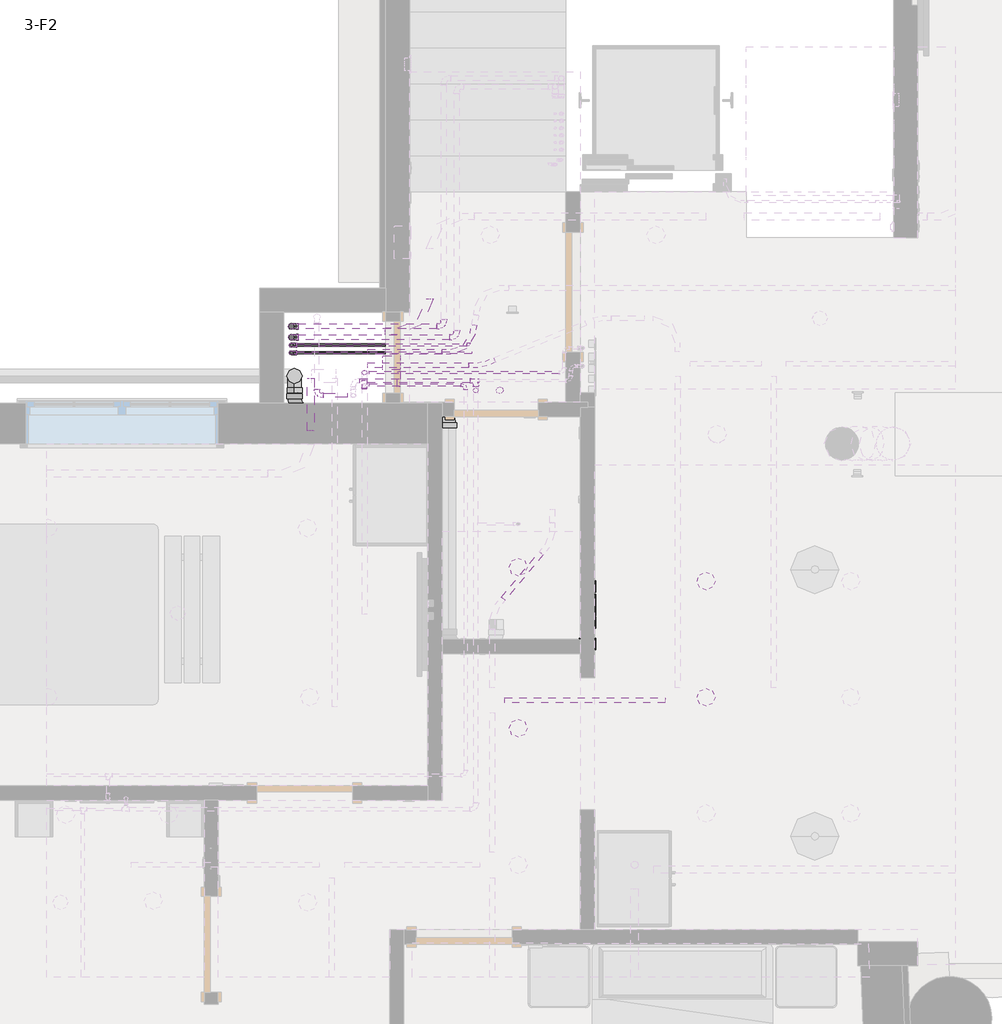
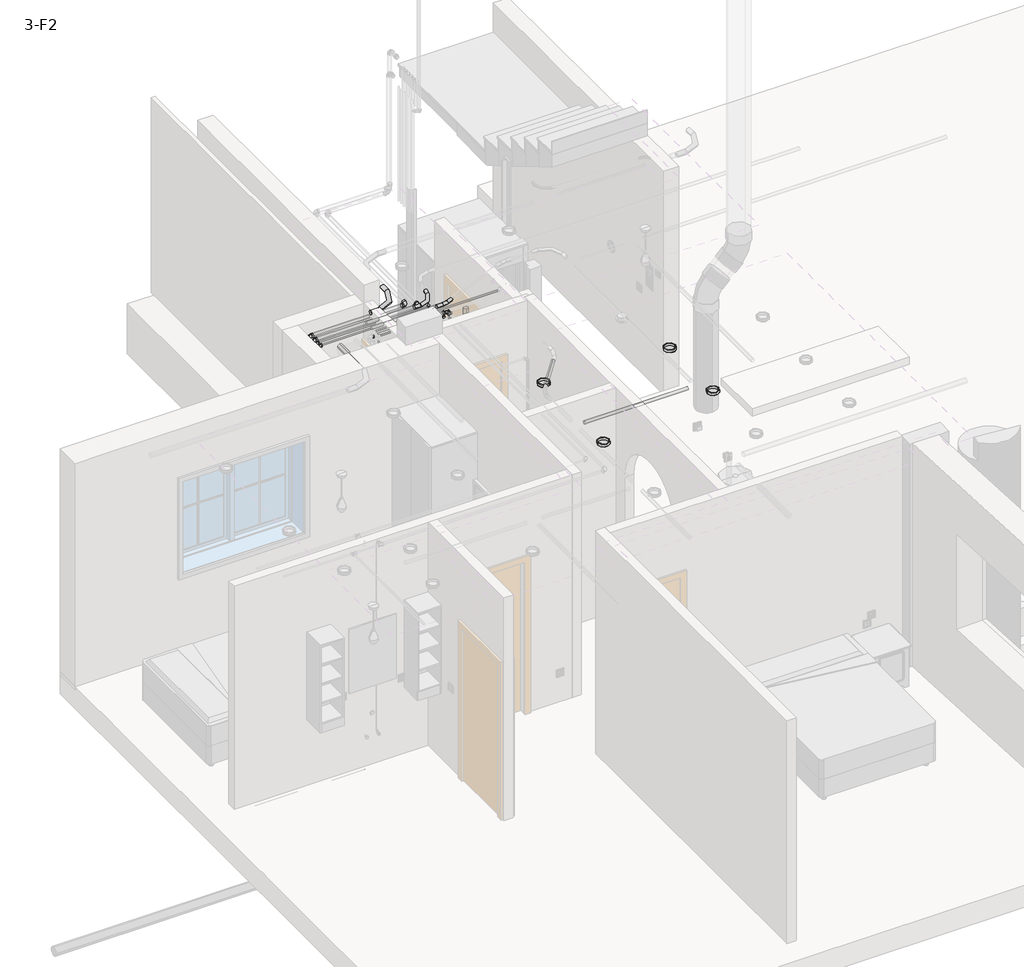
# One storey, part 8 of 12: 20 pipe fittings, 20 pipe segments, 7 cable carrier segments, 5 switching devices, 4 light fixtures, 3 cable carrier fittings, 2 proxies.
"""IFC4 building model written with IfcOpenShell, lengths in millimetres."""

from ifc_helpers import new_model, si_unit, point, frame, frame_2d, origin, place, context, project, spatial, circle_curve, trimmed, segment, composite_curve, outline, extrude, transform, mapped, element, save
from components import m_fan_standard_eed13d24, wall_mounted_socket_ups_wall_mounted_socket_ups_4524048d, m_conduit_elbow_aluminum_standard_8a5b7878, m_conduit_elbow_aluminum_standard_ff32c618, m_conduit_elbow_without_fittings_emt_standard_11a9927b, m_downlight_recessed_can_152mm_incandescent_120v_1ee42939, m_bend_pvc_sch_40_dwv_standard_48d77e49, m_bend_pvc_sch_40_dwv_standard_1fb0f857, m_bend_pvc_sch_40_dwv_standard_738aab8b, m_bend_pvc_sch_40_dwv_standard_b153bf5a, m_bend_pvc_sch_40_dwv_standard_42e46e6b, m_bend_pvc_sch_40_dwv_standard_59af4741, m_bend_pvc_sch_40_dwv_standard_6b4332b1, m_bend_pvc_sch_40_dwv_standard_4a518940, m_elbow_welded_generic_standard_c3fc6815, m_reducer_pvc_sch_40_dwv_standard_ed73b344, m_tee_reducing_sanitary_pvc_sch_40_dwv_standard_0d22577e, m_tee_reducing_sanitary_pvc_sch_40_dwv_standard_51b4b954, m_tee_reducing_sanitary_pvc_sch_40_dwv_standard_743e33f4, switching_device_8f59fbb7, switching_device_ab05ab5c

model = new_model("IFC4")

# Units and contexts
model_context = context("Model", 3, world=origin())
ifc_project = project(units=[si_unit("LENGTHUNIT", "METRE", prefix="MILLI")], contexts=[model_context])

# Site, building, storey
site = spatial("IfcSite", under=ifc_project)
building = spatial("IfcBuilding", under=site)
storey = spatial("IfcBuildingStorey", under=building, Name="3-F2", Elevation=6550.0)

# Proxies
placement = place(None, origin())
m_fan_standard_shape = m_fan_standard_eed13d24(model_context)
element("IfcBuildingElementProxy", 1, Name="M_Fan : Standard", ObjectType="M_Fan : Standard", at=placement, inside=storey, context=model_context, shape_type="MappedRepresentation", body=[
    mapped(m_fan_standard_shape, transform((-4937.4765921, 3524.4560655, 9350.0), x_axis=(0.0, 1.0, 0.0), y_axis=(0.0, 0.0, 1.0), z_axis=(1.0, 0.0, 0.0))),
])
wall_mounted_socket_ups_wall_mounted_socket_ups_shape = wall_mounted_socket_ups_wall_mounted_socket_ups_4524048d(model_context)
element("IfcBuildingElementProxy", 2, Name="WALL MOUNTED SOCKET : WALL MOUNTED SOCKET", ObjectType="WALL MOUNTED SOCKET : WALL MOUNTED SOCKET", at=placement, inside=storey, context=model_context, shape_type="MappedRepresentation", body=[
    mapped(wall_mounted_socket_ups_wall_mounted_socket_ups_shape, transform((-3317.6151583, 1800.1275048, 7000.0), x_axis=(0.0, 1.0, 0.0), y_axis=(0.0, 0.0, 1.0), z_axis=(1.0, 0.0, 0.0))),
])

# Cable carrier fittings
m_conduit_elbow_aluminum_standard_shape = m_conduit_elbow_aluminum_standard_8a5b7878(model_context)
element("IfcCableCarrierFitting", 3, ObjectType="M_Conduit Elbow - Aluminum : Standard", at=placement, inside=storey, context=model_context, shape_type="MappedRepresentation", body=[
    mapped(m_conduit_elbow_aluminum_standard_shape, transform((-4362.6085608, 3752.1999775, 9630.825), x_axis=(1.0, 0.0, 0.0), y_axis=(0.0, 1.0, 0.0), z_axis=(0.0, 0.0, 1.0))),
])
m_conduit_elbow_aluminum_standard_2_shape = m_conduit_elbow_aluminum_standard_ff32c618(model_context)
element("IfcCableCarrierFitting", 4, ObjectType="M_Conduit Elbow - Aluminum : Standard", at=placement, inside=storey, context=model_context, shape_type="MappedRepresentation", body=[
    mapped(m_conduit_elbow_aluminum_standard_2_shape, transform((-4256.3129672, 3642.1315282, 9630.825), x_axis=(1.0, 0.0, 0.0), y_axis=(0.0, 1.0, 0.0), z_axis=(0.0, 0.0, 1.0))),
])
m_conduit_elbow_without_fittings_emt_standard_shape = m_conduit_elbow_without_fittings_emt_standard_11a9927b(model_context)
element("IfcCableCarrierFitting", 5, ObjectType="M_Conduit Elbow - without Fittings - EMT : Standard", at=placement, inside=storey, context=model_context, shape_type="MappedRepresentation", body=[
    mapped(m_conduit_elbow_without_fittings_emt_standard_shape, transform((-4690.7650264, 3923.6310655, 9622.1), x_axis=(1.0, 0.0, 0.0), y_axis=(0.0, 1.0, 0.0), z_axis=(0.0, 0.0, 1.0))),
])

# Cable carrier segments
element("IfcCableCarrierSegment", 6, ObjectType="Power", at=placement, inside=storey, context=model_context, shape_type="SweptSolid", body=[
    extrude(outline(composite_curve([segment(trimmed(circle_curve(frame_2d((9619.835, -5682.4765921)), 30.165), [point((9619.835, -5652.3115921))], [point((9650.0, -5682.4765921))], False, "CARTESIAN"), True, "CONTINUOUS"), segment(trimmed(circle_curve(frame_2d((9619.835, -5682.4765921)), 30.165), [point((9650.0, -5682.4765921))], [point((9619.835, -5712.6415921))], False, "CARTESIAN"), True, "CONTINUOUS"), segment(trimmed(circle_curve(frame_2d((9619.835, -5682.4765921)), 30.165), [point((9619.835, -5712.6415921))], [point((9589.67, -5682.4765921))], False, "CARTESIAN"), True, "CONTINUOUS"), segment(trimmed(circle_curve(frame_2d((9619.835, -5682.4765921)), 30.165), [point((9589.67, -5682.4765921))], [point((9619.835, -5652.3115921))], False, "CARTESIAN"), True, "CONTINUOUS")], self_intersect=False)), frame((0.0, 3096.0291386, 0.0), z_axis=(0.0, 1.0, 0.0), x_axis=(0.0, 0.0, 1.0)), (0.0, 0.0, 1.0), 435.7143274),
])
element("IfcCableCarrierSegment", 7, ObjectType="Power", at=placement, inside=storey, context=model_context, shape_type="SweptSolid", body=[
    extrude(outline(composite_curve([segment(trimmed(circle_curve(frame_2d((-4107.5, 3432.4)), 30.165), [point((-4137.665, 3432.4))], [point((-4107.5, 3462.565))], False, "CARTESIAN"), True, "CONTINUOUS"), segment(trimmed(circle_curve(frame_2d((-4107.5, 3432.4)), 30.165), [point((-4107.5, 3462.565))], [point((-4077.335, 3432.4))], False, "CARTESIAN"), True, "CONTINUOUS"), segment(trimmed(circle_curve(frame_2d((-4107.5, 3432.4)), 30.165), [point((-4077.335, 3432.4))], [point((-4107.5, 3402.235))], False, "CARTESIAN"), True, "CONTINUOUS"), segment(trimmed(circle_curve(frame_2d((-4107.5, 3432.4)), 30.165), [point((-4107.5, 3402.235))], [point((-4137.665, 3432.4))], False, "CARTESIAN"), True, "CONTINUOUS")], self_intersect=False)), frame((0.0, 0.0, 8746.25), z_axis=(0.0, 0.0, 1.0), x_axis=(1.0, 0.0, 0.0)), (0.0, 0.0, 1.0), 903.75),
])
element("IfcCableCarrierSegment", 8, ObjectType="Power", at=placement, inside=storey, context=model_context, shape_type="SweptSolid", body=[
    extrude(outline(composite_curve([segment(trimmed(circle_curve(frame_2d((-4307.5, 3432.4)), 21.08), [point((-4328.58, 3432.4))], [point((-4307.5, 3453.48))], False, "CARTESIAN"), True, "CONTINUOUS"), segment(trimmed(circle_curve(frame_2d((-4307.5, 3432.4)), 21.08), [point((-4307.5, 3453.48))], [point((-4286.42, 3432.4))], False, "CARTESIAN"), True, "CONTINUOUS"), segment(trimmed(circle_curve(frame_2d((-4307.5, 3432.4)), 21.08), [point((-4286.42, 3432.4))], [point((-4307.5, 3411.32))], False, "CARTESIAN"), True, "CONTINUOUS"), segment(trimmed(circle_curve(frame_2d((-4307.5, 3432.4)), 21.08), [point((-4307.5, 3411.32))], [point((-4328.58, 3432.4))], False, "CARTESIAN"), True, "CONTINUOUS")], self_intersect=False)), frame((0.0, 0.0, 8720.85), z_axis=(0.0, 0.0, 1.0), x_axis=(1.0, 0.0, 0.0)), (0.0, 0.0, 1.0), 929.15),
])
element("IfcCableCarrierSegment", 9, ObjectType="Power", at=placement, inside=storey, context=model_context, shape_type="SweptSolid", body=[
    extrude(outline(composite_curve([segment(trimmed(circle_curve(frame_2d((3642.1315282, 9630.825)), 21.08), [point((3621.0515282, 9630.825))], [point((3642.1315282, 9651.905))], False, "CARTESIAN"), True, "CONTINUOUS"), segment(trimmed(circle_curve(frame_2d((3642.1315282, 9630.825)), 21.08), [point((3642.1315282, 9651.905))], [point((3663.2115282, 9630.825))], False, "CARTESIAN"), True, "CONTINUOUS"), segment(trimmed(circle_curve(frame_2d((3642.1315282, 9630.825)), 21.08), [point((3663.2115282, 9630.825))], [point((3642.1315282, 9609.745))], False, "CARTESIAN"), True, "CONTINUOUS"), segment(trimmed(circle_curve(frame_2d((3642.1315282, 9630.825)), 21.08), [point((3642.1315282, 9609.745))], [point((3621.0515282, 9630.825))], False, "CARTESIAN"), True, "CONTINUOUS")], self_intersect=False)), frame((-5207.5, 0.0, 0.0), z_axis=(1.0, 0.0, 0.0), x_axis=(0.0, 1.0, 0.0)), (0.0, 0.0, 1.0), 839.1918989),
])
element("IfcCableCarrierSegment", 10, ObjectType="Power", at=placement, inside=storey, context=model_context, shape_type="SweptSolid", body=[
    extrude(outline(composite_curve([segment(trimmed(circle_curve(frame_2d((3752.1999775, 9630.825)), 21.08), [point((3731.1199775, 9630.825))], [point((3752.1999775, 9651.905))], False, "CARTESIAN"), True, "CONTINUOUS"), segment(trimmed(circle_curve(frame_2d((3752.1999775, 9630.825)), 21.08), [point((3752.1999775, 9651.905))], [point((3773.2799775, 9630.825))], False, "CARTESIAN"), True, "CONTINUOUS"), segment(trimmed(circle_curve(frame_2d((3752.1999775, 9630.825)), 21.08), [point((3773.2799775, 9630.825))], [point((3752.1999775, 9609.745))], False, "CARTESIAN"), True, "CONTINUOUS"), segment(trimmed(circle_curve(frame_2d((3752.1999775, 9630.825)), 21.08), [point((3752.1999775, 9609.745))], [point((3731.1199775, 9630.825))], False, "CARTESIAN"), True, "CONTINUOUS")], self_intersect=False)), frame((-5207.5, 0.0, 0.0), z_axis=(1.0, 0.0, 0.0), x_axis=(0.0, 1.0, 0.0)), (0.0, 0.0, 1.0), 615.6701646),
])
element("IfcCableCarrierSegment", 11, ObjectType="Power", at=placement, inside=storey, context=model_context, shape_type="SweptSolid", body=[
    extrude(outline(composite_curve([segment(trimmed(circle_curve(frame_2d((0.0, -21.08)), 21.08), [point((-21.08, -21.08))], [point((0.0, 0.0))], False, "CARTESIAN"), True, "CONTINUOUS"), segment(trimmed(circle_curve(frame_2d((0.0, -21.08)), 21.08), [point((0.0, 0.0))], [point((21.08, -21.08))], False, "CARTESIAN"), True, "CONTINUOUS"), segment(trimmed(circle_curve(frame_2d((0.0, -21.08)), 21.08), [point((21.08, -21.08))], [point((0.0, -42.16))], False, "CARTESIAN"), True, "CONTINUOUS"), segment(trimmed(circle_curve(frame_2d((0.0, -21.08)), 21.08), [point((0.0, -42.16))], [point((-21.08, -21.08))], False, "CARTESIAN"), True, "CONTINUOUS")], self_intersect=False)), frame((-4079.4628022, 1697.5535711, 9609.745), z_axis=(0.6427876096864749, 0.7660444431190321, 0.0), x_axis=(0.7660444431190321, -0.6427876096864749, 0.0)), (0.0, 0.0, 1.0), 493.5497627),
])
element("IfcCableCarrierSegment", 12, ObjectType="Power", at=placement, inside=storey, context=model_context, shape_type="SweptSolid", body=[
    extrude(outline(composite_curve([segment(trimmed(circle_curve(frame_2d((852.6176449, 9630.825)), 21.08), [point((873.6976449, 9630.825))], [point((852.6176449, 9609.745))], False, "CARTESIAN"), True, "CONTINUOUS"), segment(trimmed(circle_curve(frame_2d((852.6176449, 9630.825)), 21.08), [point((852.6176449, 9609.745))], [point((831.5376449, 9630.825))], False, "CARTESIAN"), True, "CONTINUOUS"), segment(trimmed(circle_curve(frame_2d((852.6176449, 9630.825)), 21.08), [point((831.5376449, 9630.825))], [point((852.6176449, 9651.905))], False, "CARTESIAN"), True, "CONTINUOUS"), segment(trimmed(circle_curve(frame_2d((852.6176449, 9630.825)), 21.08), [point((852.6176449, 9651.905))], [point((873.6976449, 9630.825))], False, "CARTESIAN"), True, "CONTINUOUS")], self_intersect=False)), frame((-4066.5261339, 0.0, 0.0), z_axis=(1.0, 0.0, 0.0), x_axis=(0.0, 1.0, 0.0)), (0.0, 0.0, 1.0), 1334.0495417),
])

# Light fixtures
m_downlight_recessed_can_152mm_incandescent_120v_shape = m_downlight_recessed_can_152mm_incandescent_120v_1ee42939(model_context)
element("IfcLightFixture", 13, ObjectType="M_Downlight - Recessed Can : 203mm Incandescent - 277V", at=placement, inside=storey, context=model_context, shape_type="MappedRepresentation", body=[
    mapped(m_downlight_recessed_can_152mm_incandescent_120v_shape, transform((-2390.7208752, 1844.6820281, 6935.4), x_axis=(1.0, 0.0, 0.0), y_axis=(0.0, 1.0, 0.0), z_axis=(0.0, 0.0, 1.0))),
])
element("IfcLightFixture", 14, ObjectType="M_Downlight - Recessed Can : 203mm Incandescent - 277V", at=placement, inside=storey, context=model_context, shape_type="MappedRepresentation", body=[
    mapped(m_downlight_recessed_can_152mm_incandescent_120v_shape, transform((-2390.7208752, 877.7272222, 6935.4), x_axis=(1.0, 0.0, 0.0), y_axis=(0.0, 1.0, 0.0), z_axis=(0.0, 0.0, 1.0))),
])
element("IfcLightFixture", 15, ObjectType="M_Downlight - Recessed Can : 203mm Incandescent - 277V", at=placement, inside=storey, context=model_context, shape_type="MappedRepresentation", body=[
    mapped(m_downlight_recessed_can_152mm_incandescent_120v_shape, transform((-3954.5706461, 620.1275048, 6935.4), x_axis=(1.0, 0.0, 0.0), y_axis=(0.0, 1.0, 0.0), z_axis=(0.0, 0.0, 1.0))),
])
element("IfcLightFixture", 16, ObjectType="M_Downlight - Recessed Can : 203mm Incandescent - 277V", at=placement, inside=storey, context=model_context, shape_type="MappedRepresentation", body=[
    mapped(m_downlight_recessed_can_152mm_incandescent_120v_shape, transform((-3954.5706461, 1960.1275048, 6935.4), x_axis=(1.0, 0.0, 0.0), y_axis=(0.0, 1.0, 0.0), z_axis=(0.0, 0.0, 1.0))),
])

# Pipe fittings
m_bend_pvc_sch_40_dwv_standard_shape = m_bend_pvc_sch_40_dwv_standard_48d77e49(model_context)
element("IfcPipeFitting", 17, ObjectType="M_Bend - PVC - Sch 40 - DWV : Standard", at=placement, inside=storey, context=model_context, shape_type="MappedRepresentation", body=[
    mapped(m_bend_pvc_sch_40_dwv_standard_shape, transform((-4574.9732649, 3965.4176655, 9540.0), x_axis=(1.0, 0.0, 0.0), y_axis=(0.0, 1.0, 0.0), z_axis=(0.0, 0.0, 1.0))),
])
element("IfcPipeFitting", 18, ObjectType="M_Bend - PVC - Sch 40 - DWV : Standard", at=placement, inside=storey, context=model_context, shape_type="MappedRepresentation", body=[
    mapped(m_bend_pvc_sch_40_dwv_standard_shape, transform((-4466.9732649, 3875.4176655, 9540.0), x_axis=(1.0, 0.0, 0.0), y_axis=(0.0, 1.0, 0.0), z_axis=(0.0, 0.0, 1.0))),
])
element("IfcPipeFitting", 19, ObjectType="M_Bend - PVC - Sch 40 - DWV : Standard", at=placement, inside=storey, context=model_context, shape_type="MappedRepresentation", body=[
    mapped(m_bend_pvc_sch_40_dwv_standard_shape, transform((-5841.9732649, 3875.4176655, 9540.0), x_axis=(-1.0, 0.0, 0.0), y_axis=(0.0, 0.0, -1.0), z_axis=(0.0, -1.0, 0.0))),
])
element("IfcPipeFitting", 20, ObjectType="M_Bend - PVC - Sch 40 - DWV : Standard", at=placement, inside=storey, context=model_context, shape_type="MappedRepresentation", body=[
    mapped(m_bend_pvc_sch_40_dwv_standard_shape, transform((-5842.4732649, 3965.4176655, 9540.0), x_axis=(-1.0, 0.0, 0.0), y_axis=(0.0, 0.0, -1.0), z_axis=(0.0, -1.0, 0.0))),
])
element("IfcPipeFitting", 21, ObjectType="M_Bend - PVC - Sch 40 - DWV : Standard", at=placement, inside=storey, context=model_context, shape_type="MappedRepresentation", body=[
    mapped(m_bend_pvc_sch_40_dwv_standard_shape, transform((-5842.4732649, 3965.4176655, 2700.0), x_axis=(0.0, 0.0, -1.0), y_axis=(1.0, 0.0, 0.0), z_axis=(0.0, -1.0, 0.0))),
])
element("IfcPipeFitting", 22, ObjectType="M_Bend - PVC - Sch 40 - DWV : Standard", at=placement, inside=storey, context=model_context, shape_type="MappedRepresentation", body=[
    mapped(m_bend_pvc_sch_40_dwv_standard_shape, transform((-5841.9732649, 3875.4176655, 2700.0), x_axis=(0.0, 0.0, -1.0), y_axis=(1.0, 0.0, 0.0), z_axis=(0.0, -1.0, 0.0))),
])
m_bend_pvc_sch_40_dwv_standard_2_shape = m_bend_pvc_sch_40_dwv_standard_1fb0f857(model_context)
element("IfcPipeFitting", 23, ObjectType="M_Bend - PVC - Sch 40 - DWV : Standard", at=placement, inside=storey, context=model_context, shape_type="MappedRepresentation", body=[
    mapped(m_bend_pvc_sch_40_dwv_standard_2_shape, transform((-4531.5261339, 3262.4259188, 6739.0), x_axis=(0.0, 1.0, 0.0), y_axis=(-1.0, 0.0, 0.0), z_axis=(0.0, 0.0, 1.0))),
])
m_bend_pvc_sch_40_dwv_standard_3_shape = m_bend_pvc_sch_40_dwv_standard_738aab8b(model_context)
element("IfcPipeFitting", 24, ObjectType="M_Bend - PVC - Sch 40 - DWV : Standard", at=placement, inside=storey, context=model_context, shape_type="MappedRepresentation", body=[
    mapped(m_bend_pvc_sch_40_dwv_standard_3_shape, transform((-3387.6140854, 1300.1275048, 6739.0), x_axis=(1.0, 0.0, 0.0), y_axis=(0.0, 1.0, 0.0), z_axis=(0.0, 0.0, 1.0))),
])
m_bend_pvc_sch_40_dwv_standard_4_shape = m_bend_pvc_sch_40_dwv_standard_b153bf5a(model_context)
element("IfcPipeFitting", 25, ObjectType="M_Bend - PVC - Sch 40 - DWV : Standard", at=placement, inside=storey, context=model_context, shape_type="MappedRepresentation", body=[
    mapped(m_bend_pvc_sch_40_dwv_standard_4_shape, transform((-5629.7712314, 3390.5776886, 8050.0), x_axis=(0.0, -1.0, 0.0), y_axis=(1.0, 0.0, 0.0), z_axis=(0.0, 0.0, 1.0))),
])
m_bend_pvc_sch_40_dwv_standard_5_shape = m_bend_pvc_sch_40_dwv_standard_42e46e6b(model_context)
element("IfcPipeFitting", 26, ObjectType="M_Bend - PVC - Sch 40 - DWV : Standard", at=placement, inside=storey, context=model_context, shape_type="MappedRepresentation", body=[
    mapped(m_bend_pvc_sch_40_dwv_standard_5_shape, transform((-4391.5261339, 3476.9560655, 9620.0), x_axis=(0.0, 1.0, 0.0), y_axis=(-1.0, 0.0, 0.0), z_axis=(0.0, 0.0, 1.0))),
])
m_bend_pvc_sch_40_dwv_standard_6_shape = m_bend_pvc_sch_40_dwv_standard_59af4741(model_context)
element("IfcPipeFitting", 27, ObjectType="M_Bend - PVC - Sch 40 - DWV : Standard", at=placement, inside=storey, context=model_context, shape_type="MappedRepresentation", body=[
    mapped(m_bend_pvc_sch_40_dwv_standard_6_shape, transform((-5817.5193023, 3262.4255749, 6739.0), x_axis=(-0.000252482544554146, -0.9999999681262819, 0.0), y_axis=(0.9999999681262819, -0.000252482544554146, 0.0), z_axis=(0.0, 0.0, 1.0))),
])
m_bend_pvc_sch_40_dwv_standard_7_shape = m_bend_pvc_sch_40_dwv_standard_6b4332b1(model_context)
element("IfcPipeFitting", 28, ObjectType="M_Bend - PVC - Sch 40 - DWV : Standard", at=placement, inside=storey, context=model_context, shape_type="MappedRepresentation", body=[
    mapped(m_bend_pvc_sch_40_dwv_standard_7_shape, transform((-5841.9733515, 3809.4530321, 9539.9991996), x_axis=(-0.9999999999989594, 0.0, 1.4426912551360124e-06), y_axis=(-1.4426912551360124e-06, 0.0, -0.9999999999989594), z_axis=(0.0, -1.0, 0.0))),
])
m_bend_pvc_sch_40_dwv_standard_8_shape = m_bend_pvc_sch_40_dwv_standard_4a518940(model_context)
element("IfcPipeFitting", 29, ObjectType="M_Bend - PVC - Sch 40 - DWV : Standard", at=placement, inside=storey, context=model_context, shape_type="MappedRepresentation", body=[
    mapped(m_bend_pvc_sch_40_dwv_standard_8_shape, transform((-5841.9732649, 3745.4616042, 9540.0), x_axis=(-1.0, 0.0, 0.0), y_axis=(0.0, 0.0, -1.0), z_axis=(0.0, -1.0, 0.0))),
])
element("IfcPipeFitting", 30, ObjectType="M_Bend - PVC - Sch 40 - DWV : Standard", at=placement, inside=storey, context=model_context, shape_type="MappedRepresentation", body=[
    mapped(m_bend_pvc_sch_40_dwv_standard_8_shape, transform((-5841.9732649, 3745.4616042, 6200.0), x_axis=(0.0, 0.0, -1.0), y_axis=(1.0, 0.0, 0.0), z_axis=(0.0, -1.0, 0.0))),
])
element("IfcPipeFitting", 31, ObjectType="M_Bend - PVC - Sch 40 - DWV : Standard", at=placement, inside=storey, context=model_context, shape_type="MappedRepresentation", body=[
    mapped(m_bend_pvc_sch_40_dwv_standard_8_shape, transform((-5841.9732649, 3809.4530321, 6200.0), x_axis=(0.0, 0.0, -1.0), y_axis=(1.0, 0.0, 0.0), z_axis=(0.0, -1.0, 0.0))),
])
m_elbow_welded_generic_standard_shape = m_elbow_welded_generic_standard_c3fc6815(model_context)
element("IfcPipeFitting", 32, ObjectType="M_Elbow - Welded - Generic : Standard", at=placement, inside=storey, context=model_context, shape_type="MappedRepresentation", body=[
    mapped(m_elbow_welded_generic_standard_shape, transform((-4366.9732649, 3809.4530321, 9539.9970717), x_axis=(0.9999999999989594, 0.0, -1.4426912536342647e-06), y_axis=(2.044930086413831e-12, 0.9999999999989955, 1.4174412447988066e-06), z_axis=(1.4426912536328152e-06, -1.4174412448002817e-06, 0.9999999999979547))),
])
m_reducer_pvc_sch_40_dwv_standard_shape = m_reducer_pvc_sch_40_dwv_standard_ed73b344(model_context)
element("IfcPipeFitting", 33, ObjectType="M_Reducer - PVC - Sch 40 - DWV : Standard", at=placement, inside=storey, context=model_context, shape_type="MappedRepresentation", body=[
    mapped(m_reducer_pvc_sch_40_dwv_standard_shape, transform((-5234.2694836, 3580.1275048, 9578.9859375), x_axis=(0.0, 0.0, -1.0), y_axis=(1.0, 0.0, 0.0), z_axis=(0.0, -1.0, 0.0))),
])
m_tee_reducing_sanitary_pvc_sch_40_dwv_standard_shape = m_tee_reducing_sanitary_pvc_sch_40_dwv_standard_0d22577e(model_context)
element("IfcPipeFitting", 34, ObjectType="M_Tee Reducing Sanitary - PVC - Sch 40 - DWV : Standard", at=placement, inside=storey, context=model_context, shape_type="MappedRepresentation", body=[
    mapped(m_tee_reducing_sanitary_pvc_sch_40_dwv_standard_shape, transform((-4306.5261339, 3513.0776886, 9620.0), x_axis=(1.0, 0.0, 0.0), y_axis=(0.0, 1.0, 0.0), z_axis=(0.0, 0.0, 1.0))),
])
m_tee_reducing_sanitary_pvc_sch_40_dwv_standard_2_shape = m_tee_reducing_sanitary_pvc_sch_40_dwv_standard_51b4b954(model_context)
element("IfcPipeFitting", 35, ObjectType="M_Tee Reducing Sanitary - PVC - Sch 40 - DWV : Standard", at=placement, inside=storey, context=model_context, shape_type="MappedRepresentation", body=[
    mapped(m_tee_reducing_sanitary_pvc_sch_40_dwv_standard_2_shape, transform((-5234.2694836, 3476.9560655, 9450.0), x_axis=(0.0, -1.0, 0.0), y_axis=(0.0, 0.0, -1.0), z_axis=(1.0, 0.0, 0.0))),
])
m_tee_reducing_sanitary_pvc_sch_40_dwv_standard_3_shape = m_tee_reducing_sanitary_pvc_sch_40_dwv_standard_743e33f4(model_context)
element("IfcPipeFitting", 36, ObjectType="M_Tee Reducing Sanitary - PVC - Sch 40 - DWV : Standard", at=placement, inside=storey, context=model_context, shape_type="MappedRepresentation", body=[
    mapped(m_tee_reducing_sanitary_pvc_sch_40_dwv_standard_3_shape, transform((-5817.4765912, 3552.3881129, 6739.0), x_axis=(0.0, 0.0, 1.0), y_axis=(0.0002524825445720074, 0.9999999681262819, 0.0), z_axis=(-0.9999999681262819, 0.0002524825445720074, 0.0))),
])

# Pipe segments
element("IfcPipeSegment", 37, ObjectType="PVC - DWV", at=placement, inside=storey, context=model_context, shape_type="SweptSolid", body=[
    extrude(outline(composite_curve([segment(trimmed(circle_curve(frame_2d((3476.9560655, 9620.0)), 10.668), [point((3487.6240655, 9620.0))], [point((3476.9560655, 9609.332))], False, "CARTESIAN"), True, "CONTINUOUS"), segment(trimmed(circle_curve(frame_2d((3476.9560655, 9620.0)), 10.668), [point((3476.9560655, 9609.332))], [point((3466.2880655, 9620.0))], False, "CARTESIAN"), True, "CONTINUOUS"), segment(trimmed(circle_curve(frame_2d((3476.9560655, 9620.0)), 10.668), [point((3466.2880655, 9620.0))], [point((3476.9560655, 9630.668))], False, "CARTESIAN"), True, "CONTINUOUS"), segment(trimmed(circle_curve(frame_2d((3476.9560655, 9620.0)), 10.668), [point((3476.9560655, 9630.668))], [point((3487.6240655, 9620.0))], False, "CARTESIAN"), True, "CONTINUOUS")], self_intersect=False)), frame((-5193.2554211, 0.0, 0.0), z_axis=(1.0, 0.0, 0.0), x_axis=(0.0, 1.0, 0.0)), (0.0, 0.0, 1.0), 760.7152248),
])
element("IfcPipeSegment", 38, ObjectType="PVC - DWV", at=placement, inside=storey, context=model_context, shape_type="SweptSolid", body=[
    extrude(outline(composite_curve([segment(trimmed(circle_curve(frame_2d((3513.0776886, 9620.0)), 16.7005), [point((3529.7781886, 9620.0))], [point((3513.0776886, 9603.2995))], False, "CARTESIAN"), True, "CONTINUOUS"), segment(trimmed(circle_curve(frame_2d((3513.0776886, 9620.0)), 16.7005), [point((3513.0776886, 9603.2995))], [point((3496.3771886, 9620.0))], False, "CARTESIAN"), True, "CONTINUOUS"), segment(trimmed(circle_curve(frame_2d((3513.0776886, 9620.0)), 16.7005), [point((3496.3771886, 9620.0))], [point((3513.0776886, 9636.7005))], False, "CARTESIAN"), True, "CONTINUOUS"), segment(trimmed(circle_curve(frame_2d((3513.0776886, 9620.0)), 16.7005), [point((3513.0776886, 9636.7005))], [point((3529.7781886, 9620.0))], False, "CARTESIAN"), True, "CONTINUOUS")], self_intersect=False)), frame((-5274.8625296, 0.0, 0.0), z_axis=(1.0, 0.0, 0.0), x_axis=(0.0, 1.0, 0.0)), (0.0, 0.0, 1.0), 920.885677),
])
element("IfcPipeSegment", 39, ObjectType="PVC - DWV", at=placement, inside=storey, context=model_context, shape_type="SweptSolid", body=[
    extrude(outline(composite_curve([segment(trimmed(circle_curve(frame_2d((3580.1275048, 9620.0)), 10.668), [point((3569.4595048, 9620.0))], [point((3580.1275048, 9630.668))], False, "CARTESIAN"), True, "CONTINUOUS"), segment(trimmed(circle_curve(frame_2d((3580.1275048, 9620.0)), 10.668), [point((3580.1275048, 9630.668))], [point((3590.7955048, 9620.0))], False, "CARTESIAN"), True, "CONTINUOUS"), segment(trimmed(circle_curve(frame_2d((3580.1275048, 9620.0)), 10.668), [point((3590.7955048, 9620.0))], [point((3580.1275048, 9609.332))], False, "CARTESIAN"), True, "CONTINUOUS"), segment(trimmed(circle_curve(frame_2d((3580.1275048, 9620.0)), 10.668), [point((3580.1275048, 9609.332))], [point((3569.4595048, 9620.0))], False, "CARTESIAN"), True, "CONTINUOUS")], self_intersect=False)), frame((-5193.2554211, 0.0, 0.0), z_axis=(1.0, 0.0, 0.0), x_axis=(0.0, 1.0, 0.0)), (0.0, 0.0, 1.0), 1579.7647665),
])
element("IfcPipeSegment", 40, ObjectType="PVC - DWV", at=placement, inside=storey, context=model_context, shape_type="SweptSolid", body=[
    extrude(outline(composite_curve([segment(trimmed(circle_curve(frame_2d((9450.0, -5234.2694836)), 16.7005), [point((9450.0, -5250.9699836))], [point((9433.2995, -5234.2694836))], False, "CARTESIAN"), True, "CONTINUOUS"), segment(trimmed(circle_curve(frame_2d((9450.0, -5234.2694836)), 16.7005), [point((9433.2995, -5234.2694836))], [point((9450.0, -5217.5689836))], False, "CARTESIAN"), True, "CONTINUOUS"), segment(trimmed(circle_curve(frame_2d((9450.0, -5234.2694836)), 16.7005), [point((9450.0, -5217.5689836))], [point((9466.7005, -5234.2694836))], False, "CARTESIAN"), True, "CONTINUOUS"), segment(trimmed(circle_curve(frame_2d((9450.0, -5234.2694836)), 16.7005), [point((9466.7005, -5234.2694836))], [point((9450.0, -5250.9699836))], False, "CARTESIAN"), True, "CONTINUOUS")], self_intersect=False)), frame((0.0, 3439.6425946, 0.0), z_axis=(0.0, 1.0, 0.0), x_axis=(0.0, 0.0, 1.0)), (0.0, 0.0, 1.0), 11.1415333),
])
element("IfcPipeSegment", 41, ObjectType="PVC - DWV", at=placement, inside=storey, context=model_context, shape_type="SweptSolid", body=[
    extrude(outline(composite_curve([segment(trimmed(circle_curve(frame_2d((3390.5776886, 8050.0)), 16.7005), [point((3373.8771886, 8050.0))], [point((3390.5776886, 8066.7005))], False, "CARTESIAN"), True, "CONTINUOUS"), segment(trimmed(circle_curve(frame_2d((3390.5776886, 8050.0)), 16.7005), [point((3390.5776886, 8066.7005))], [point((3407.2781886, 8050.0))], False, "CARTESIAN"), True, "CONTINUOUS"), segment(trimmed(circle_curve(frame_2d((3390.5776886, 8050.0)), 16.7005), [point((3407.2781886, 8050.0))], [point((3390.5776886, 8033.2995))], False, "CARTESIAN"), True, "CONTINUOUS"), segment(trimmed(circle_curve(frame_2d((3390.5776886, 8050.0)), 16.7005), [point((3390.5776886, 8033.2995))], [point((3373.8771886, 8050.0))], False, "CARTESIAN"), True, "CONTINUOUS")], self_intersect=False)), frame((-5577.1571689, 0.0, 0.0), z_axis=(1.0, 0.0, 0.0), x_axis=(0.0, 1.0, 0.0)), (0.0, 0.0, 1.0), 197.3860127),
])
element("IfcPipeSegment", 42, ObjectType="PVC - DWV", at=placement, inside=storey, context=model_context, shape_type="SweptSolid", body=[
    extrude(outline(composite_curve([segment(trimmed(circle_curve(frame_2d((3662.3881129, 9361.0)), 57.15), [point((3719.5381129, 9361.0))], [point((3662.3881129, 9303.85))], False, "CARTESIAN"), True, "CONTINUOUS"), segment(trimmed(circle_curve(frame_2d((3662.3881129, 9361.0)), 57.15), [point((3662.3881129, 9303.85))], [point((3605.2381129, 9361.0))], False, "CARTESIAN"), True, "CONTINUOUS"), segment(trimmed(circle_curve(frame_2d((3662.3881129, 9361.0)), 57.15), [point((3605.2381129, 9361.0))], [point((3662.3881129, 9418.15))], False, "CARTESIAN"), True, "CONTINUOUS"), segment(trimmed(circle_curve(frame_2d((3662.3881129, 9361.0)), 57.15), [point((3662.3881129, 9418.15))], [point((3719.5381129, 9361.0))], False, "CARTESIAN"), True, "CONTINUOUS")], self_intersect=False)), frame((-5082.4765921, 0.0, 0.0), z_axis=(1.0, 0.0, 0.0), x_axis=(0.0, 1.0, 0.0)), (0.0, 0.0, 1.0), 147.4765921),
])
element("IfcPipeSegment", 43, ObjectType="PVC - DWV", at=placement, inside=storey, context=model_context, shape_type="SweptSolid", body=[
    extrude(outline(composite_curve([segment(trimmed(circle_curve(frame_2d((3965.4176655, 9540.0)), 21.082), [point((3986.4996655, 9540.0))], [point((3965.4176655, 9518.918))], False, "CARTESIAN"), True, "CONTINUOUS"), segment(trimmed(circle_curve(frame_2d((3965.4176655, 9540.0)), 21.082), [point((3965.4176655, 9518.918))], [point((3944.3356655, 9540.0))], False, "CARTESIAN"), True, "CONTINUOUS"), segment(trimmed(circle_curve(frame_2d((3965.4176655, 9540.0)), 21.082), [point((3944.3356655, 9540.0))], [point((3965.4176655, 9561.082))], False, "CARTESIAN"), True, "CONTINUOUS"), segment(trimmed(circle_curve(frame_2d((3965.4176655, 9540.0)), 21.082), [point((3965.4176655, 9561.082))], [point((3986.4996655, 9540.0))], False, "CARTESIAN"), True, "CONTINUOUS")], self_intersect=False)), frame((-5785.3232649, 0.0, 0.0), z_axis=(1.0, 0.0, 0.0), x_axis=(0.0, 1.0, 0.0)), (0.0, 0.0, 1.0), 1153.2),
])
element("IfcPipeSegment", 44, ObjectType="PVC - DWV", at=placement, inside=storey, context=model_context, shape_type="SweptSolid", body=[
    extrude(outline(composite_curve([segment(trimmed(circle_curve(frame_2d((3875.4176655, 9540.0)), 21.082), [point((3896.4996655, 9540.0))], [point((3875.4176655, 9518.918))], False, "CARTESIAN"), True, "CONTINUOUS"), segment(trimmed(circle_curve(frame_2d((3875.4176655, 9540.0)), 21.082), [point((3875.4176655, 9518.918))], [point((3854.3356655, 9540.0))], False, "CARTESIAN"), True, "CONTINUOUS"), segment(trimmed(circle_curve(frame_2d((3875.4176655, 9540.0)), 21.082), [point((3854.3356655, 9540.0))], [point((3875.4176655, 9561.082))], False, "CARTESIAN"), True, "CONTINUOUS"), segment(trimmed(circle_curve(frame_2d((3875.4176655, 9540.0)), 21.082), [point((3875.4176655, 9561.082))], [point((3896.4996655, 9540.0))], False, "CARTESIAN"), True, "CONTINUOUS")], self_intersect=False)), frame((-5784.8232649, 0.0, 0.0), z_axis=(1.0, 0.0, 0.0), x_axis=(0.0, 1.0, 0.0)), (0.0, 0.0, 1.0), 1260.7),
])
element("IfcPipeSegment", 45, ObjectType="PVC - DWV", at=placement, inside=storey, context=model_context, shape_type="SweptSolid", body=[
    extrude(outline(composite_curve([segment(trimmed(circle_curve(frame_2d((-5841.9732649, 3875.4176655)), 21.082), [point((-5820.8912649, 3875.4176655))], [point((-5841.9732649, 3854.3356655))], False, "CARTESIAN"), True, "CONTINUOUS"), segment(trimmed(circle_curve(frame_2d((-5841.9732649, 3875.4176655)), 21.082), [point((-5841.9732649, 3854.3356655))], [point((-5863.0552649, 3875.4176655))], False, "CARTESIAN"), True, "CONTINUOUS"), segment(trimmed(circle_curve(frame_2d((-5841.9732649, 3875.4176655)), 21.082), [point((-5863.0552649, 3875.4176655))], [point((-5841.9732649, 3896.4996655))], False, "CARTESIAN"), True, "CONTINUOUS"), segment(trimmed(circle_curve(frame_2d((-5841.9732649, 3875.4176655)), 21.082), [point((-5841.9732649, 3896.4996655))], [point((-5820.8912649, 3875.4176655))], False, "CARTESIAN"), True, "CONTINUOUS")], self_intersect=False)), frame((0.0, 0.0, 2757.15), z_axis=(0.0, 0.0, 1.0), x_axis=(1.0, 0.0, 0.0)), (0.0, 0.0, 1.0), 6725.7),
])
element("IfcPipeSegment", 46, ObjectType="PVC - DWV", at=placement, inside=storey, context=model_context, shape_type="SweptSolid", body=[
    extrude(outline(composite_curve([segment(trimmed(circle_curve(frame_2d((-5842.4732649, 3965.4176655)), 21.082), [point((-5821.3912649, 3965.4176655))], [point((-5842.4732649, 3944.3356655))], False, "CARTESIAN"), True, "CONTINUOUS"), segment(trimmed(circle_curve(frame_2d((-5842.4732649, 3965.4176655)), 21.082), [point((-5842.4732649, 3944.3356655))], [point((-5863.5552649, 3965.4176655))], False, "CARTESIAN"), True, "CONTINUOUS"), segment(trimmed(circle_curve(frame_2d((-5842.4732649, 3965.4176655)), 21.082), [point((-5863.5552649, 3965.4176655))], [point((-5842.4732649, 3986.4996655))], False, "CARTESIAN"), True, "CONTINUOUS"), segment(trimmed(circle_curve(frame_2d((-5842.4732649, 3965.4176655)), 21.082), [point((-5842.4732649, 3986.4996655))], [point((-5821.3912649, 3965.4176655))], False, "CARTESIAN"), True, "CONTINUOUS")], self_intersect=False)), frame((0.0, 0.0, 2757.15), z_axis=(0.0, 0.0, 1.0), x_axis=(1.0, 0.0, 0.0)), (0.0, 0.0, 1.0), 6725.7),
])
element("IfcPipeSegment", 47, ObjectType="PVC - DWV", at=placement, inside=storey, context=model_context, shape_type="SweptSolid", body=[
    extrude(outline(composite_curve([segment(trimmed(circle_curve(frame_2d((0.0, -57.15)), 57.15), [point((-57.15, -57.15))], [point((0.0, 0.0))], False, "CARTESIAN"), True, "CONTINUOUS"), segment(trimmed(circle_curve(frame_2d((0.0, -57.15)), 57.15), [point((0.0, 0.0))], [point((57.15, -57.15))], False, "CARTESIAN"), True, "CONTINUOUS"), segment(trimmed(circle_curve(frame_2d((0.0, -57.15)), 57.15), [point((57.15, -57.15))], [point((0.0, -114.3))], False, "CARTESIAN"), True, "CONTINUOUS"), segment(trimmed(circle_curve(frame_2d((0.0, -57.15)), 57.15), [point((0.0, -114.3))], [point((-57.15, -57.15))], False, "CARTESIAN"), True, "CONTINUOUS")], self_intersect=False)), frame((-5674.6443023, 3262.4256179, 6681.85), z_axis=(0.9999999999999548, 3.008477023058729e-07, 0.0), x_axis=(3.008477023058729e-07, -0.9999999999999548, 0.0)), (0.0, 0.0, 1.0), 1000.2431685),
])
element("IfcPipeSegment", 48, ObjectType="PVC - DWV", at=placement, inside=storey, context=model_context, shape_type="SweptSolid", body=[
    extrude(outline(composite_curve([segment(trimmed(circle_curve(frame_2d((0.0, 57.15)), 57.15), [point((0.0, 114.3))], [point((57.15, 57.15))], False, "CARTESIAN"), True, "CONTINUOUS"), segment(trimmed(circle_curve(frame_2d((0.0, 57.15)), 57.15), [point((57.15, 57.15))], [point((0.0, 0.0))], False, "CARTESIAN"), True, "CONTINUOUS"), segment(trimmed(circle_curve(frame_2d((0.0, 57.15)), 57.15), [point((0.0, 0.0))], [point((-57.15, 57.15))], False, "CARTESIAN"), True, "CONTINUOUS"), segment(trimmed(circle_curve(frame_2d((0.0, 57.15)), 57.15), [point((-57.15, 57.15))], [point((0.0, 114.3))], False, "CARTESIAN"), True, "CONTINUOUS")], self_intersect=False)), frame((-5874.6331971, 3405.3608809, 6739.0), z_axis=(0.0010553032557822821, 0.9999994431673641, 0.0), x_axis=(0.0, 0.0, 1.0)), (0.0, 0.0, 1.0), 6.2898853),
])
element("IfcPipeSegment", 49, ObjectType="PVC - DWV", at=placement, inside=storey, context=model_context, shape_type="SweptSolid", body=[
    extrude(outline(composite_curve([segment(trimmed(circle_curve(frame_2d((3809.4530321, 9539.9970975)), 9.55), [point((3819.0030321, 9539.9970975))], [point((3809.4530321, 9530.4470975))], False, "CARTESIAN"), True, "CONTINUOUS"), segment(trimmed(circle_curve(frame_2d((3809.4530321, 9539.9970975)), 9.55), [point((3809.4530321, 9530.4470975))], [point((3799.9030321, 9539.9970975))], False, "CARTESIAN"), True, "CONTINUOUS"), segment(trimmed(circle_curve(frame_2d((3809.4530321, 9539.9970975)), 9.55), [point((3799.9030321, 9539.9970975))], [point((3809.4530321, 9549.5470975))], False, "CARTESIAN"), True, "CONTINUOUS"), segment(trimmed(circle_curve(frame_2d((3809.4530321, 9539.9970975)), 9.55), [point((3809.4530321, 9549.5470975))], [point((3819.0030321, 9539.9970975))], False, "CARTESIAN"), True, "CONTINUOUS")], self_intersect=False)), frame((-5796.319289, 0.0, 0.0), z_axis=(1.0, 0.0, 0.0), x_axis=(0.0, 1.0, 0.0)), (0.0, 0.0, 1.0), 1411.4370397),
])
element("IfcPipeSegment", 50, ObjectType="PVC - DWV", at=placement, inside=storey, context=model_context, shape_type="SweptSolid", body=[
    extrude(outline(composite_curve([segment(trimmed(circle_curve(frame_2d((3745.4616042, 9540.0)), 9.55), [point((3755.0116042, 9540.0))], [point((3745.4616042, 9530.45))], False, "CARTESIAN"), True, "CONTINUOUS"), segment(trimmed(circle_curve(frame_2d((3745.4616042, 9540.0)), 9.55), [point((3745.4616042, 9530.45))], [point((3735.9116042, 9540.0))], False, "CARTESIAN"), True, "CONTINUOUS"), segment(trimmed(circle_curve(frame_2d((3745.4616042, 9540.0)), 9.55), [point((3735.9116042, 9540.0))], [point((3745.4616042, 9549.55))], False, "CARTESIAN"), True, "CONTINUOUS"), segment(trimmed(circle_curve(frame_2d((3745.4616042, 9540.0)), 9.55), [point((3745.4616042, 9549.55))], [point((3755.0116042, 9540.0))], False, "CARTESIAN"), True, "CONTINUOUS")], self_intersect=False)), frame((-5796.3192024, 0.0, 0.0), z_axis=(1.0, 0.0, 0.0), x_axis=(0.0, 1.0, 0.0)), (0.0, 0.0, 1.0), 1454.3796719),
])
element("IfcPipeSegment", 51, ObjectType="PVC - DWV", at=placement, inside=storey, context=model_context, shape_type="SweptSolid", body=[
    extrude(outline(composite_curve([segment(trimmed(circle_curve(frame_2d((0.0, -9.55)), 9.55), [point((-9.55, -9.55))], [point((0.0, 0.0))], False, "CARTESIAN"), True, "CONTINUOUS"), segment(trimmed(circle_curve(frame_2d((0.0, -9.55)), 9.55), [point((0.0, 0.0))], [point((9.55, -9.55))], False, "CARTESIAN"), True, "CONTINUOUS"), segment(trimmed(circle_curve(frame_2d((0.0, -9.55)), 9.55), [point((9.55, -9.55))], [point((0.0, -19.1))], False, "CARTESIAN"), True, "CONTINUOUS"), segment(trimmed(circle_curve(frame_2d((0.0, -9.55)), 9.55), [point((0.0, -19.1))], [point((-9.55, -9.55))], False, "CARTESIAN"), True, "CONTINUOUS")], self_intersect=False)), frame((-5841.9732649, 3799.9030321, 6245.6540625), z_axis=(-2.664538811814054e-08, 0.0, 0.9999999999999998), x_axis=(-0.9999999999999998, 0.0, -2.664538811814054e-08)), (0.0, 0.0, 1.0), 3248.6910746),
])
element("IfcPipeSegment", 52, ObjectType="PVC - DWV", at=placement, inside=storey, context=model_context, shape_type="SweptSolid", body=[
    extrude(outline(composite_curve([segment(trimmed(circle_curve(frame_2d((-5841.9732649, 3745.4616042)), 9.55), [point((-5832.4232649, 3745.4616042))], [point((-5841.9732649, 3735.9116042))], False, "CARTESIAN"), True, "CONTINUOUS"), segment(trimmed(circle_curve(frame_2d((-5841.9732649, 3745.4616042)), 9.55), [point((-5841.9732649, 3735.9116042))], [point((-5851.5232649, 3745.4616042))], False, "CARTESIAN"), True, "CONTINUOUS"), segment(trimmed(circle_curve(frame_2d((-5841.9732649, 3745.4616042)), 9.55), [point((-5851.5232649, 3745.4616042))], [point((-5841.9732649, 3755.0116042))], False, "CARTESIAN"), True, "CONTINUOUS"), segment(trimmed(circle_curve(frame_2d((-5841.9732649, 3745.4616042)), 9.55), [point((-5841.9732649, 3755.0116042))], [point((-5832.4232649, 3745.4616042))], False, "CARTESIAN"), True, "CONTINUOUS")], self_intersect=False)), frame((0.0, 0.0, 6245.6540625), z_axis=(0.0, 0.0, 1.0), x_axis=(1.0, 0.0, 0.0)), (0.0, 0.0, 1.0), 3248.691875),
])
element("IfcPipeSegment", 53, ObjectType="PVC - DWV", at=placement, inside=storey, context=model_context, shape_type="SweptSolid", body=[
    extrude(outline(composite_curve([segment(trimmed(circle_curve(frame_2d((3745.4616042, 6200.0)), 9.55), [point((3735.9116042, 6200.0))], [point((3745.4616042, 6209.55))], False, "CARTESIAN"), True, "CONTINUOUS"), segment(trimmed(circle_curve(frame_2d((3745.4616042, 6200.0)), 9.55), [point((3745.4616042, 6209.55))], [point((3755.0116042, 6200.0))], False, "CARTESIAN"), True, "CONTINUOUS"), segment(trimmed(circle_curve(frame_2d((3745.4616042, 6200.0)), 9.55), [point((3755.0116042, 6200.0))], [point((3745.4616042, 6190.45))], False, "CARTESIAN"), True, "CONTINUOUS"), segment(trimmed(circle_curve(frame_2d((3745.4616042, 6200.0)), 9.55), [point((3745.4616042, 6190.45))], [point((3735.9116042, 6200.0))], False, "CARTESIAN"), True, "CONTINUOUS")], self_intersect=False)), frame((-5796.3192024, 0.0, 0.0), z_axis=(1.0, 0.0, 0.0), x_axis=(0.0, 1.0, 0.0)), (0.0, 0.0, 1.0), 2669.3459375),
])
element("IfcPipeSegment", 54, ObjectType="PVC - DWV", at=placement, inside=storey, context=model_context, shape_type="SweptSolid", body=[
    extrude(outline(composite_curve([segment(trimmed(circle_curve(frame_2d((3809.4530321, 6200.0)), 9.55), [point((3799.9030321, 6200.0))], [point((3809.4530321, 6209.55))], False, "CARTESIAN"), True, "CONTINUOUS"), segment(trimmed(circle_curve(frame_2d((3809.4530321, 6200.0)), 9.55), [point((3809.4530321, 6209.55))], [point((3819.0030321, 6200.0))], False, "CARTESIAN"), True, "CONTINUOUS"), segment(trimmed(circle_curve(frame_2d((3809.4530321, 6200.0)), 9.55), [point((3819.0030321, 6200.0))], [point((3809.4530321, 6190.45))], False, "CARTESIAN"), True, "CONTINUOUS"), segment(trimmed(circle_curve(frame_2d((3809.4530321, 6200.0)), 9.55), [point((3809.4530321, 6190.45))], [point((3799.9030321, 6200.0))], False, "CARTESIAN"), True, "CONTINUOUS")], self_intersect=False)), frame((-5796.3192024, 0.0, 0.0), z_axis=(1.0, 0.0, 0.0), x_axis=(0.0, 1.0, 0.0)), (0.0, 0.0, 1.0), 2669.3459375),
])
element("IfcPipeSegment", 55, ObjectType="PVC - DWV", at=placement, inside=storey, context=model_context, shape_type="SweptSolid", body=[
    extrude(outline(composite_curve([segment(trimmed(circle_curve(frame_2d((1300.1275048, 6739.0)), 24.13), [point((1275.9975048, 6739.0))], [point((1300.1275048, 6763.13))], False, "CARTESIAN"), True, "CONTINUOUS"), segment(trimmed(circle_curve(frame_2d((1300.1275048, 6739.0)), 24.13), [point((1300.1275048, 6763.13))], [point((1324.2575048, 6739.0))], False, "CARTESIAN"), True, "CONTINUOUS"), segment(trimmed(circle_curve(frame_2d((1300.1275048, 6739.0)), 24.13), [point((1324.2575048, 6739.0))], [point((1300.1275048, 6714.87))], False, "CARTESIAN"), True, "CONTINUOUS"), segment(trimmed(circle_curve(frame_2d((1300.1275048, 6739.0)), 24.13), [point((1300.1275048, 6714.87))], [point((1275.9975048, 6739.0))], False, "CARTESIAN"), True, "CONTINUOUS")], self_intersect=False)), frame((-4062.2046671, 0.0, 0.0), z_axis=(1.0, 0.0, 0.0), x_axis=(0.0, 1.0, 0.0)), (0.0, 0.0, 1.0), 612.6907817),
])
element("IfcPipeSegment", 56, ObjectType="PVC - DWV", at=placement, inside=storey, context=model_context, shape_type="SweptSolid", body=[
    extrude(outline(composite_curve([segment(trimmed(circle_curve(frame_2d((0.0, -24.13)), 24.13), [point((0.0, -48.26))], [point((-24.13, -24.13))], False, "CARTESIAN"), True, "CONTINUOUS"), segment(trimmed(circle_curve(frame_2d((0.0, -24.13)), 24.13), [point((-24.13, -24.13))], [point((0.0, 0.0))], False, "CARTESIAN"), True, "CONTINUOUS"), segment(trimmed(circle_curve(frame_2d((0.0, -24.13)), 24.13), [point((0.0, 0.0))], [point((24.13, -24.13))], False, "CARTESIAN"), True, "CONTINUOUS"), segment(trimmed(circle_curve(frame_2d((0.0, -24.13)), 24.13), [point((24.13, -24.13))], [point((0.0, -48.26))], False, "CARTESIAN"), True, "CONTINUOUS")], self_intersect=False)), frame((-3411.7394433, 2462.5681151, 6738.9851809), z_axis=(-4.218088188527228e-06, -0.999999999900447, 1.346528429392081e-05), x_axis=(5.679723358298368e-11, 1.3465284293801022e-05, 0.9999999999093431)), (0.0, 0.0, 1.0), 1100.5407086),
])

# Switching devices
switching_device_shape = switching_device_8f59fbb7(model_context)
element("IfcSwitchingDevice", 57, ObjectType="TWO WAY ONE GANG LIGHTING SWICH : TWO WAY ONE GANG LIGHTING SWICH", at=placement, inside=storey, context=model_context, shape_type="MappedRepresentation", body=[
    mapped(switching_device_shape, transform((-3317.6151583, 1690.1275048, 7700.0), x_axis=(0.0, 1.0, 0.0), y_axis=(0.0, 0.0, 1.0), z_axis=(1.0, 0.0, 0.0))),
])
element("IfcSwitchingDevice", 58, ObjectType="TWO WAY ONE GANG LIGHTING SWICH : TWO WAY ONE GANG LIGHTING SWICH", at=placement, inside=storey, context=model_context, shape_type="MappedRepresentation", body=[
    mapped(switching_device_shape, transform((-3437.6151583, 1320.1275048, 7700.0), x_axis=(0.0, -1.0, 0.0), y_axis=(0.0, 0.0, 1.0), z_axis=(-1.0, 0.0, 0.0))),
])
element("IfcSwitchingDevice", 59, ObjectType="TWO WAY ONE GANG LIGHTING SWICH : TWO WAY ONE GANG LIGHTING SWICH", at=placement, inside=storey, context=model_context, shape_type="MappedRepresentation", body=[
    mapped(switching_device_shape, transform((-3317.6151583, 1500.0560655, 7700.0), x_axis=(0.0, 1.0, 0.0), y_axis=(0.0, 0.0, 1.0), z_axis=(1.0, 0.0, 0.0))),
])
element("IfcSwitchingDevice", 60, ObjectType="TWO WAY ONE GANG LIGHTING SWICH : TWO WAY ONE GANG LIGHTING SWICH", at=placement, inside=storey, context=model_context, shape_type="MappedRepresentation", body=[
    mapped(switching_device_shape, transform((-3317.6151583, 1605.2560655, 7700.0), x_axis=(0.0, 1.0, 0.0), y_axis=(0.0, 0.0, 1.0), z_axis=(1.0, 0.0, 0.0))),
])
switching_device_2_shape = switching_device_ab05ab5c(model_context)
element("IfcSwitchingDevice", 61, ObjectType="ONE WAY ONE GANG LIGHTING SWICH : ONE WAY ONE GANG LIGHTING SWICH", at=placement, inside=storey, context=model_context, shape_type="MappedRepresentation", body=[
    mapped(switching_device_2_shape, transform((-3317.6151583, 1320.1275048, 7700.0), x_axis=(0.0, 1.0, 0.0), y_axis=(0.0, 0.0, 1.0), z_axis=(1.0, 0.0, 0.0))),
])

save(model, "model.ifc")
